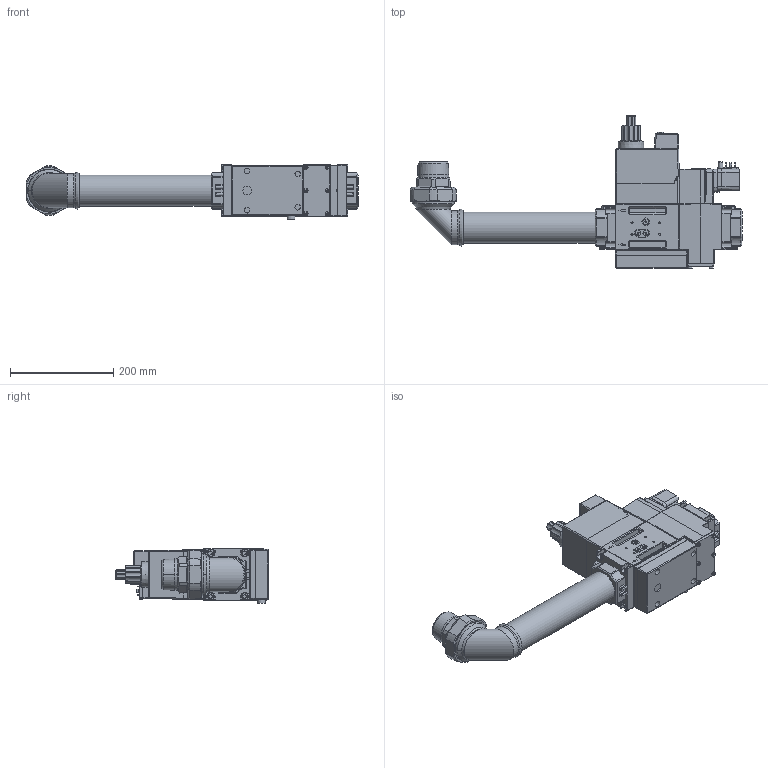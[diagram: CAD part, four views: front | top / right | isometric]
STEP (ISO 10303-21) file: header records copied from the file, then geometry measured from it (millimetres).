
FILE_DESCRIPTION (( 'STEP AP203' ), '1' );
FILE_NAME ('19990609-111789.step', '2016-12-15T11:17:38', ( '' ), ( '' ), 'SwSTEP 2.0', 'SolidWorks 2016', '' );
FILE_SCHEMA (( 'CONFIG_CONTROL_DESIGN' ));
Length unit declared in the file: millimetre
Products named in the file (8): 0005040038-03745; 0005090337-112892; 19990609-111789; 30506-102399; 0005180006-102398; 34782-102401; 0005090115-102402; 0005090337-112893-AUTO
Assembly tree (8 placements, depth 3):
  19990609-111789
    30506-102399
    0005180006-102398
    34782-102401
    0005090115-102402  x2
    0005090337-112892
      0005090337-112893-AUTO
      0005040038-03745
Bounding box: 643.7 x 296 x 106.08 mm (x, y, z)
Volume: 5050056.6 mm3; surface area: 545429.9 mm2
Topology: 10 solids, 10 shells, 2385 faces, 5948 edges, 3691 vertices
Faces by surface type: plane 927, cylinder 707, bspline 479, cone 171, torus 82, sphere 19
Full cylindrical faces by diameter (mm): 0.7 x2, 1.5 x4, 2 x1, 2.5 x8, 3.7 x3, 4 x4, 6.647 x8, 6.75 x2, 6.917 x8, 8 x3, 8.5 x6, 8.57 x1, 9 x1, 10 x3, 10.5 x6, 10.6 x1, 10.96 x2, 11 x7, 15 x3, 15.2 x1, 15.3 x1, 26 x1, 36.15 x1, 50 x1, 53 x1, 56.656 x1, 57 x2, 60.25 x1, 60.3 x1, 60.5 x1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
Entity records: 106849 total; most frequent: CARTESIAN_POINT 59377, ORIENTED_EDGE 10362, DIRECTION 7861, EDGE_CURVE 5181, VERTEX_POINT 3350, AXIS2_PLACEMENT_3D 2772, EDGE_LOOP 2677, FACE_OUTER_BOUND 2346
